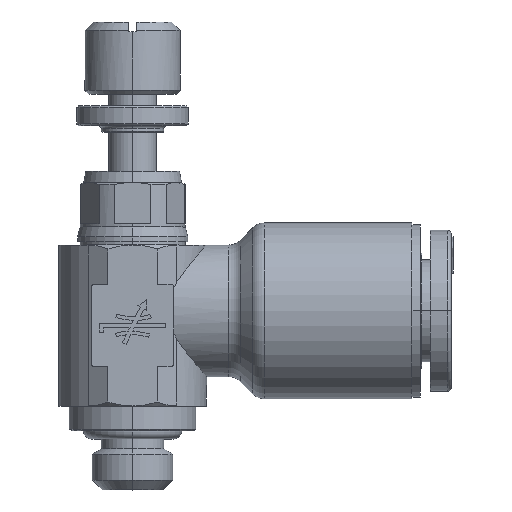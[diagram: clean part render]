
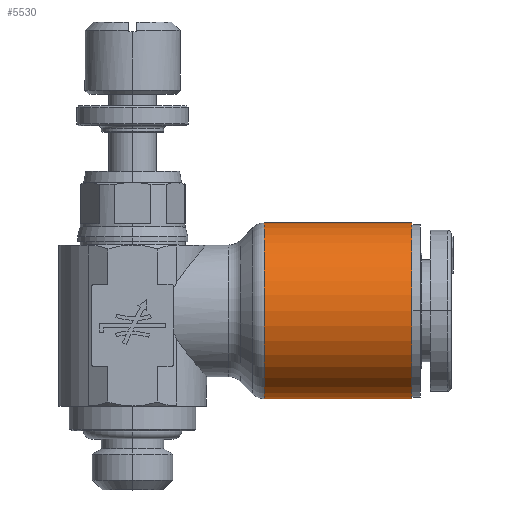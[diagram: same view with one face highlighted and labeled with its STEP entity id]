
A CAD part, top view. The second image highlights one B-rep face of the part: STEP entity #5530.
In plain terms, the highlighted cylindrical face has radius 5.35 mm (diameter 10.7 mm), a partial arc.
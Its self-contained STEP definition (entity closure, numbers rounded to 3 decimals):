
#83 = ORIENTED_EDGE ( 'NONE', *, *, #10498, .T. ) ;
#992 = DIRECTION ( 'NONE',  ( 0., 1., 0. ) ) ;
#1633 = VERTEX_POINT ( 'NONE', #4061 ) ;
#2491 = ORIENTED_EDGE ( 'NONE', *, *, #11092, .T. ) ;
#2634 = CARTESIAN_POINT ( 'NONE',  ( 17., 7.3, 0. ) ) ;
#2653 = ORIENTED_EDGE ( 'NONE', *, *, #13792, .F. ) ;
#3891 = DIRECTION ( 'NONE',  ( 0., 1., 0. ) ) ;
#4061 = CARTESIAN_POINT ( 'NONE',  ( 8.014, 1.95, 0. ) ) ;
#4115 = VERTEX_POINT ( 'NONE', #13375 ) ;
#4213 = CIRCLE ( 'NONE', #6906, 5.35 ) ;
#4274 = VERTEX_POINT ( 'NONE', #5176 ) ;
#4463 = LINE ( 'NONE', #6858, #13609 ) ;
#4565 = DIRECTION ( 'NONE',  ( 0., 1., 0. ) ) ;
#5176 = CARTESIAN_POINT ( 'NONE',  ( 8.014, 12.65, 0. ) ) ;
#5309 = DIRECTION ( 'NONE',  ( 1., 0., 0. ) ) ;
#5530 = ADVANCED_FACE ( 'NONE', ( #11443 ), #10275, .T. ) ;
#6858 = CARTESIAN_POINT ( 'NONE',  ( 17., 12.65, 0. ) ) ;
#6906 = AXIS2_PLACEMENT_3D ( 'NONE', #15888, #8523, #992 ) ;
#7055 = DIRECTION ( 'NONE',  ( 1., 0., 0. ) ) ;
#7057 = CARTESIAN_POINT ( 'NONE',  ( 17., 1.95, 0. ) ) ;
#7167 = VECTOR ( 'NONE', #5309, 1000. ) ;
#8115 = DIRECTION ( 'NONE',  ( 1., 0., 0. ) ) ;
#8523 = DIRECTION ( 'NONE',  ( 1., 0., 0. ) ) ;
#8738 = EDGE_LOOP ( 'NONE', ( #83, #2491, #15604, #2653 ) ) ;
#9069 = CARTESIAN_POINT ( 'NONE',  ( 17., 1.95, 0. ) ) ;
#9368 = AXIS2_PLACEMENT_3D ( 'NONE', #12009, #7055, #4565 ) ;
#10275 = CYLINDRICAL_SURFACE ( 'NONE', #9368, 5.35 ) ;
#10390 = VERTEX_POINT ( 'NONE', #7057 ) ;
#10495 = LINE ( 'NONE', #9069, #7167 ) ;
#10498 = EDGE_CURVE ( 'NONE', #4274, #1633, #4213, .T. ) ;
#11092 = EDGE_CURVE ( 'NONE', #1633, #10390, #10495, .T. ) ;
#11385 = DIRECTION ( 'NONE',  ( 1., 0., 0. ) ) ;
#11443 = FACE_OUTER_BOUND ( 'NONE', #8738, .T. ) ;
#11718 = AXIS2_PLACEMENT_3D ( 'NONE', #2634, #11385, #3891 ) ;
#12009 = CARTESIAN_POINT ( 'NONE',  ( 17., 7.3, 0. ) ) ;
#12688 = CIRCLE ( 'NONE', #11718, 5.35 ) ;
#13052 = EDGE_CURVE ( 'NONE', #4115, #10390, #12688, .T. ) ;
#13375 = CARTESIAN_POINT ( 'NONE',  ( 17., 12.65, 0. ) ) ;
#13609 = VECTOR ( 'NONE', #8115, 1000. ) ;
#13792 = EDGE_CURVE ( 'NONE', #4274, #4115, #4463, .T. ) ;
#15604 = ORIENTED_EDGE ( 'NONE', *, *, #13052, .F. ) ;
#15888 = CARTESIAN_POINT ( 'NONE',  ( 8.014, 7.3, 0. ) ) ;
